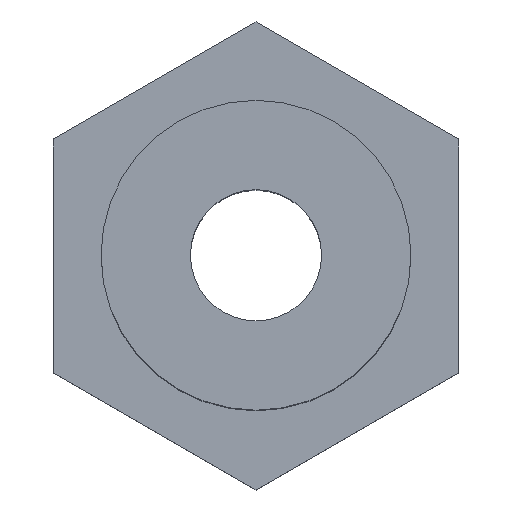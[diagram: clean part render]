
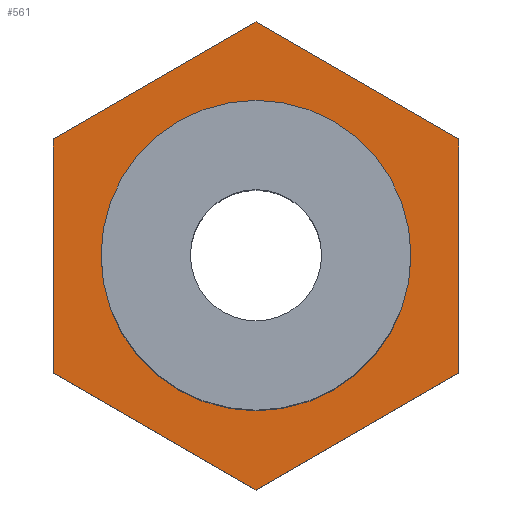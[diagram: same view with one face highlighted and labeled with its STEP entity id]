
A CAD part, top view. The second image highlights one B-rep face of the part: STEP entity #561.
In plain terms, the highlighted planar face has unit normal (0, 0, 1).
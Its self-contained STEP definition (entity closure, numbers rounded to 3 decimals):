
#11 = ORIENTED_EDGE ( 'NONE', *, *, #45, .T. ) ;
#21 = ORIENTED_EDGE ( 'NONE', *, *, #529, .T. ) ;
#23 = EDGE_CURVE ( 'NONE', #530, #315, #335, .T. ) ;
#29 = DIRECTION ( 'NONE',  ( 0., -1., 0. ) ) ;
#41 = CARTESIAN_POINT ( 'NONE',  ( 0., 0., 15. ) ) ;
#44 = ORIENTED_EDGE ( 'NONE', *, *, #321, .T. ) ;
#45 = EDGE_CURVE ( 'NONE', #169, #474, #613, .T. ) ;
#55 = AXIS2_PLACEMENT_3D ( 'NONE', #41, #68, #72 ) ;
#56 = CARTESIAN_POINT ( 'NONE',  ( -8.5, 4.907, 15. ) ) ;
#65 = LINE ( 'NONE', #498, #590 ) ;
#68 = DIRECTION ( 'NONE',  ( 0., 0., -1. ) ) ;
#72 = DIRECTION ( 'NONE',  ( -1., 0., 0. ) ) ;
#77 = LINE ( 'NONE', #243, #735 ) ;
#78 = CARTESIAN_POINT ( 'NONE',  ( 6.5, 0., 15. ) ) ;
#82 = FACE_OUTER_BOUND ( 'NONE', #328, .T. ) ;
#85 = VERTEX_POINT ( 'NONE', #373 ) ;
#93 = ORIENTED_EDGE ( 'NONE', *, *, #348, .T. ) ;
#100 = VERTEX_POINT ( 'NONE', #370 ) ;
#128 = EDGE_CURVE ( 'NONE', #474, #530, #65, .T. ) ;
#134 = CARTESIAN_POINT ( 'NONE',  ( 0., 0., 15. ) ) ;
#168 = CARTESIAN_POINT ( 'NONE',  ( 8.5, -4.907, 15. ) ) ;
#169 = VERTEX_POINT ( 'NONE', #267 ) ;
#171 = LINE ( 'NONE', #584, #302 ) ;
#187 = CARTESIAN_POINT ( 'NONE',  ( 0., 9.815, 15. ) ) ;
#212 = DIRECTION ( 'NONE',  ( 0.866, -0.5, 0. ) ) ;
#233 = EDGE_LOOP ( 'NONE', ( #93, #663 ) ) ;
#243 = CARTESIAN_POINT ( 'NONE',  ( 8.5, 4.907, 15. ) ) ;
#246 = FACE_BOUND ( 'NONE', #233, .T. ) ;
#267 = CARTESIAN_POINT ( 'NONE',  ( 0., 9.815, 15. ) ) ;
#302 = VECTOR ( 'NONE', #638, 1000. ) ;
#315 = VERTEX_POINT ( 'NONE', #525 ) ;
#321 = EDGE_CURVE ( 'NONE', #315, #85, #171, .T. ) ;
#328 = EDGE_LOOP ( 'NONE', ( #21, #11, #707, #520, #44, #615 ) ) ;
#335 = LINE ( 'NONE', #670, #466 ) ;
#348 = EDGE_CURVE ( 'NONE', #100, #713, #660, .T. ) ;
#362 = CIRCLE ( 'NONE', #55, 6.5 ) ;
#370 = CARTESIAN_POINT ( 'NONE',  ( -6.5, 0., 15. ) ) ;
#373 = CARTESIAN_POINT ( 'NONE',  ( 8.5, -4.907, 15. ) ) ;
#385 = DIRECTION ( 'NONE',  ( -0.866, -0.5, 0. ) ) ;
#403 = EDGE_CURVE ( 'NONE', #85, #687, #491, .T. ) ;
#408 = DIRECTION ( 'NONE',  ( 0., 0., -1. ) ) ;
#459 = DIRECTION ( 'NONE',  ( 0., 1., 0. ) ) ;
#466 = VECTOR ( 'NONE', #212, 1000. ) ;
#473 = DIRECTION ( 'NONE',  ( -0.866, 0.5, 0. ) ) ;
#474 = VERTEX_POINT ( 'NONE', #56 ) ;
#479 = DIRECTION ( 'NONE',  ( 0., 0., 1. ) ) ;
#491 = LINE ( 'NONE', #168, #719 ) ;
#498 = CARTESIAN_POINT ( 'NONE',  ( -8.5, 4.907, 15. ) ) ;
#520 = ORIENTED_EDGE ( 'NONE', *, *, #23, .T. ) ;
#525 = CARTESIAN_POINT ( 'NONE',  ( 0., -9.815, 15. ) ) ;
#529 = EDGE_CURVE ( 'NONE', #687, #169, #77, .T. ) ;
#530 = VERTEX_POINT ( 'NONE', #531 ) ;
#531 = CARTESIAN_POINT ( 'NONE',  ( -8.5, -4.907, 15. ) ) ;
#541 = VECTOR ( 'NONE', #385, 1000. ) ;
#561 = ADVANCED_FACE ( 'NONE', ( #246, #82 ), #651, .T. ) ;
#573 = AXIS2_PLACEMENT_3D ( 'NONE', #134, #479, #700 ) ;
#584 = CARTESIAN_POINT ( 'NONE',  ( 0., -9.815, 15. ) ) ;
#585 = AXIS2_PLACEMENT_3D ( 'NONE', #734, #408, #685 ) ;
#590 = VECTOR ( 'NONE', #29, 1000. ) ;
#613 = LINE ( 'NONE', #187, #541 ) ;
#615 = ORIENTED_EDGE ( 'NONE', *, *, #403, .T. ) ;
#638 = DIRECTION ( 'NONE',  ( 0.866, 0.5, 0. ) ) ;
#651 = PLANE ( 'NONE',  #573 ) ;
#660 = CIRCLE ( 'NONE', #585, 6.5 ) ;
#663 = ORIENTED_EDGE ( 'NONE', *, *, #698, .T. ) ;
#670 = CARTESIAN_POINT ( 'NONE',  ( -8.5, -4.907, 15. ) ) ;
#685 = DIRECTION ( 'NONE',  ( -1., 0., 0. ) ) ;
#687 = VERTEX_POINT ( 'NONE', #729 ) ;
#698 = EDGE_CURVE ( 'NONE', #713, #100, #362, .T. ) ;
#700 = DIRECTION ( 'NONE',  ( 1., 0., 0. ) ) ;
#707 = ORIENTED_EDGE ( 'NONE', *, *, #128, .T. ) ;
#713 = VERTEX_POINT ( 'NONE', #78 ) ;
#719 = VECTOR ( 'NONE', #459, 1000. ) ;
#729 = CARTESIAN_POINT ( 'NONE',  ( 8.5, 4.907, 15. ) ) ;
#734 = CARTESIAN_POINT ( 'NONE',  ( 0., 0., 15. ) ) ;
#735 = VECTOR ( 'NONE', #473, 1000. ) ;
